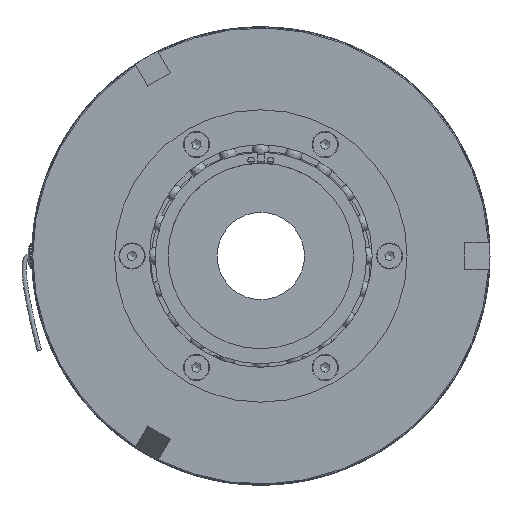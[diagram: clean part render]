
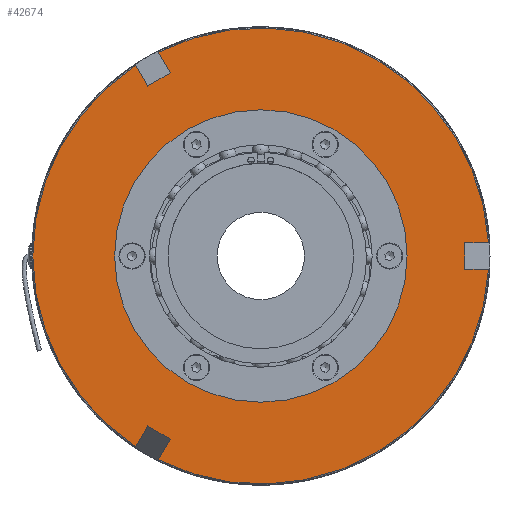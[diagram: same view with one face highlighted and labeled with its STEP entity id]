
A CAD part, left-side view. The second image highlights one B-rep face of the part: STEP entity #42674.
In plain terms, the highlighted planar face has unit normal (-1, 0, 0).
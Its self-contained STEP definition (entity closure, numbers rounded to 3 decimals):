
#305=FACE_BOUND('',#5805,.T.);
#1388=PLANE('',#46905);
#3486=FACE_OUTER_BOUND('',#5804,.T.);
#5804=EDGE_LOOP('',(#34233,#34234,#34235,#34236,#34237,#34238,#34239,#34240,
#34241,#34242,#34243,#34244));
#5805=EDGE_LOOP('',(#34245));
#10602=CIRCLE('',#46906,104.5);
#10603=CIRCLE('',#46907,104.5);
#10604=CIRCLE('',#46908,104.5);
#10605=CIRCLE('',#46909,67.);
#12602=LINE('',#74322,#15054);
#12604=LINE('',#74336,#15056);
#12606=LINE('',#74340,#15058);
#12607=LINE('',#74354,#15059);
#12610=LINE('',#74371,#15062);
#12612=LINE('',#74377,#15064);
#12614=LINE('',#74395,#15066);
#12615=LINE('',#74397,#15067);
#12616=LINE('',#74399,#15068);
#15054=VECTOR('',#57397,10.);
#15056=VECTOR('',#57401,10.);
#15058=VECTOR('',#57405,10.);
#15059=VECTOR('',#57408,10.);
#15062=VECTOR('',#57413,10.);
#15064=VECTOR('',#57419,10.);
#15066=VECTOR('',#57427,10.);
#15067=VECTOR('',#57428,10.);
#15068=VECTOR('',#57429,10.);
#18598=VERTEX_POINT('',#74320);
#18599=VERTEX_POINT('',#74321);
#18600=VERTEX_POINT('',#74335);
#18601=VERTEX_POINT('',#74339);
#18602=VERTEX_POINT('',#74352);
#18603=VERTEX_POINT('',#74353);
#18606=VERTEX_POINT('',#74370);
#18608=VERTEX_POINT('',#74376);
#18610=VERTEX_POINT('',#74392);
#18611=VERTEX_POINT('',#74394);
#18612=VERTEX_POINT('',#74396);
#18613=VERTEX_POINT('',#74398);
#18614=VERTEX_POINT('',#74401);
#24233=EDGE_CURVE('',#18598,#18599,#12602,.T.);
#24236=EDGE_CURVE('',#18600,#18598,#12604,.T.);
#24238=EDGE_CURVE('',#18601,#18600,#12606,.T.);
#24240=EDGE_CURVE('',#18602,#18603,#12607,.T.);
#24244=EDGE_CURVE('',#18606,#18602,#12610,.T.);
#24247=EDGE_CURVE('',#18608,#18606,#12612,.T.);
#24250=EDGE_CURVE('',#18608,#18599,#10602,.T.);
#24251=EDGE_CURVE('',#18610,#18603,#10603,.T.);
#24252=EDGE_CURVE('',#18610,#18611,#12614,.T.);
#24253=EDGE_CURVE('',#18611,#18612,#12615,.T.);
#24254=EDGE_CURVE('',#18612,#18613,#12616,.T.);
#24255=EDGE_CURVE('',#18601,#18613,#10604,.T.);
#24256=EDGE_CURVE('',#18614,#18614,#10605,.T.);
#34233=ORIENTED_EDGE('',*,*,#24238,.T.);
#34234=ORIENTED_EDGE('',*,*,#24236,.T.);
#34235=ORIENTED_EDGE('',*,*,#24233,.T.);
#34236=ORIENTED_EDGE('',*,*,#24250,.F.);
#34237=ORIENTED_EDGE('',*,*,#24247,.T.);
#34238=ORIENTED_EDGE('',*,*,#24244,.T.);
#34239=ORIENTED_EDGE('',*,*,#24240,.T.);
#34240=ORIENTED_EDGE('',*,*,#24251,.F.);
#34241=ORIENTED_EDGE('',*,*,#24252,.T.);
#34242=ORIENTED_EDGE('',*,*,#24253,.T.);
#34243=ORIENTED_EDGE('',*,*,#24254,.T.);
#34244=ORIENTED_EDGE('',*,*,#24255,.F.);
#34245=ORIENTED_EDGE('',*,*,#24256,.T.);
#42674=ADVANCED_FACE('',(#3486,#305),#1388,.T.);
#46905=AXIS2_PLACEMENT_3D('',#74390,#57421,#57422);
#46906=AXIS2_PLACEMENT_3D('',#74391,#57423,#57424);
#46907=AXIS2_PLACEMENT_3D('',#74393,#57425,#57426);
#46908=AXIS2_PLACEMENT_3D('',#74400,#57430,#57431);
#46909=AXIS2_PLACEMENT_3D('',#74402,#57432,#57433);
#57397=DIRECTION('',(0.,0.5,0.866));
#57401=DIRECTION('',(0.,0.866,-0.5));
#57405=DIRECTION('',(0.,-0.5,-0.866));
#57408=DIRECTION('',(0.,0.5,-0.866));
#57413=DIRECTION('',(0.,-0.866,-0.5));
#57419=DIRECTION('',(0.,-0.5,0.866));
#57421=DIRECTION('center_axis',(-1.,0.,0.));
#57422=DIRECTION('ref_axis',(0.,0.,
1.));
#57423=DIRECTION('center_axis',(1.,0.,0.));
#57424=DIRECTION('ref_axis',(0.,-1.,0.));
#57425=DIRECTION('center_axis',(1.,0.,0.));
#57426=DIRECTION('ref_axis',(0.,-1.,0.));
#57427=DIRECTION('',(0.,1.,0.));
#57428=DIRECTION('',(0.,0.,1.));
#57429=DIRECTION('',(0.,-1.,0.));
#57430=DIRECTION('center_axis',(1.,0.,0.));
#57431=DIRECTION('ref_axis',(0.,-1.,0.));
#57432=DIRECTION('center_axis',(1.,0.,0.));
#57433=DIRECTION('ref_axis',(0.,1.,0.));
#74320=CARTESIAN_POINT('',(-35.25,51.893,77.881));
#74321=CARTESIAN_POINT('',(-35.25,57.36,87.35));
#74322=CARTESIAN_POINT('',(-35.25,41.297,59.529));
#74335=CARTESIAN_POINT('',(-35.25,41.501,83.881));
#74336=CARTESIAN_POINT('',(-35.25,78.947,62.262));
#74339=CARTESIAN_POINT('',(-35.25,46.968,93.35));
#74340=CARTESIAN_POINT('',(-35.25,30.905,65.529));
#74352=CARTESIAN_POINT('',(-35.25,41.501,-83.881));
#74353=CARTESIAN_POINT('',(-35.25,46.968,-93.35));
#74354=CARTESIAN_POINT('',(-35.25,30.905,-65.529));
#74370=CARTESIAN_POINT('',(-35.25,51.893,-77.881));
#74371=CARTESIAN_POINT('',(-35.25,78.947,-62.262));
#74376=CARTESIAN_POINT('',(-35.25,57.36,-87.35));
#74377=CARTESIAN_POINT('',(-35.25,41.297,-59.529));
#74390=CARTESIAN_POINT('Origin',(-35.25,86.,0.));
#74391=CARTESIAN_POINT('Origin',(-35.25,0.,
0.));
#74392=CARTESIAN_POINT('',(-35.25,-104.328,-6.));
#74393=CARTESIAN_POINT('Origin',(-35.25,0.,
0.));
#74394=CARTESIAN_POINT('',(-35.25,-93.393,-6.));
#74395=CARTESIAN_POINT('',(-35.25,-7.702,-6.));
#74396=CARTESIAN_POINT('',(-35.25,-93.393,6.));
#74397=CARTESIAN_POINT('',(-35.25,-93.393,0.));
#74398=CARTESIAN_POINT('',(-35.25,-104.328,6.));
#74399=CARTESIAN_POINT('',(-35.25,-7.702,6.));
#74400=CARTESIAN_POINT('Origin',(-35.25,0.,
0.));
#74401=CARTESIAN_POINT('',(-35.25,67.,0.));
#74402=CARTESIAN_POINT('Origin',(-35.25,0.,
0.));
